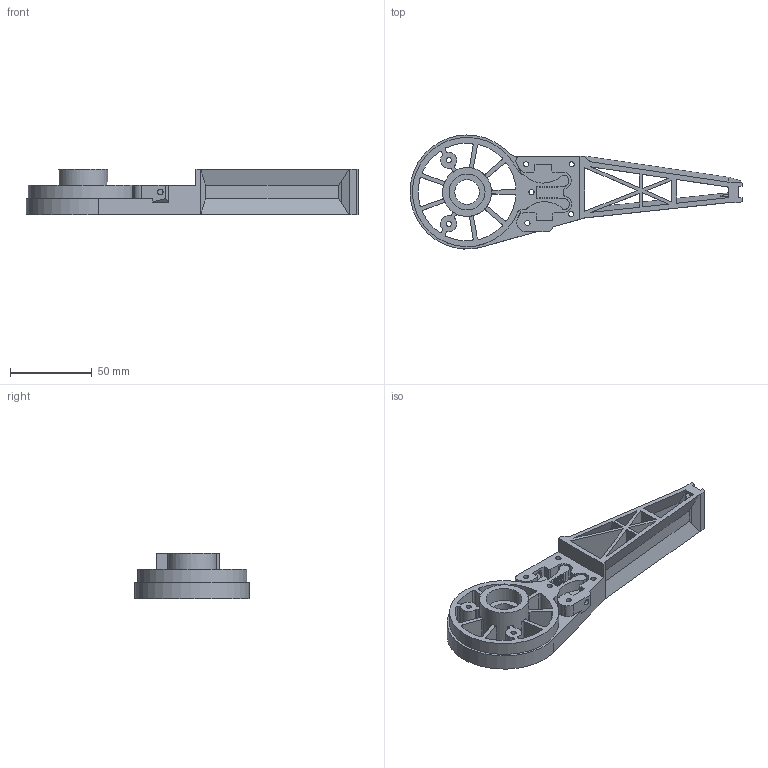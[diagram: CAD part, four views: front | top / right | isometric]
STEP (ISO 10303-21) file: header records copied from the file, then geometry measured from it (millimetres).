
FILE_DESCRIPTION(/* description */ (''),/* implementation_level */ '2;1');
FILE_NAME(/* name */ 'D:\3D печать\Мои проекты\Archy MK 2\STEP\MK3\плечо V4.stp',/* time_stamp */ '2019-07-18T21:44:27+06:00',/* author */ ('Пользователь'),/* organization */ (''),/* preprocessor_version */ 'ST-DEVELOPER v16.5',/* originating_system */ 'Autodesk Inventor 2017',/* authorisation */ '');
FILE_SCHEMA (('AUTOMOTIVE_DESIGN { 1 0 10303 214 3 1 1 }'));
Length unit declared in the file: millimetre
Products named in the file (1): плечо V4
Bounding box: 203.59 x 69.92 x 28 mm (x, y, z)
Volume: 87795.4 mm3; surface area: 48899.4 mm2
Topology: 1 solids, 2 shells, 354 faces, 1069 edges, 751 vertices
Faces by surface type: plane 252, cylinder 102
Full cylindrical faces by diameter (mm): 3 x2, 3.2 x7, 3.4 x2, 15 x1, 22.04 x2, 30 x1
Entity records: 11989 total; most frequent: CARTESIAN_POINT 2148, ORIENTED_EDGE 2036, DIRECTION 1984, EDGE_CURVE 1018, LINE 822, VECTOR 822, VERTEX_POINT 685, AXIS2_PLACEMENT_3D 581
